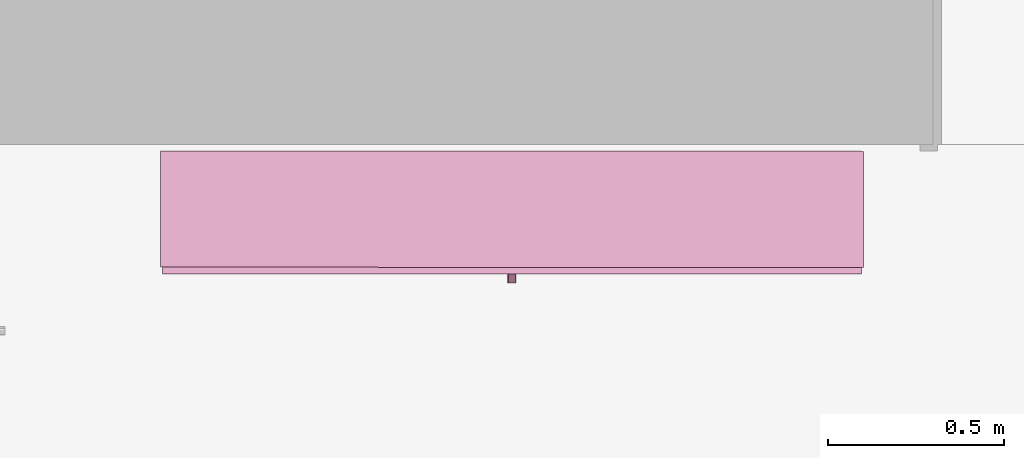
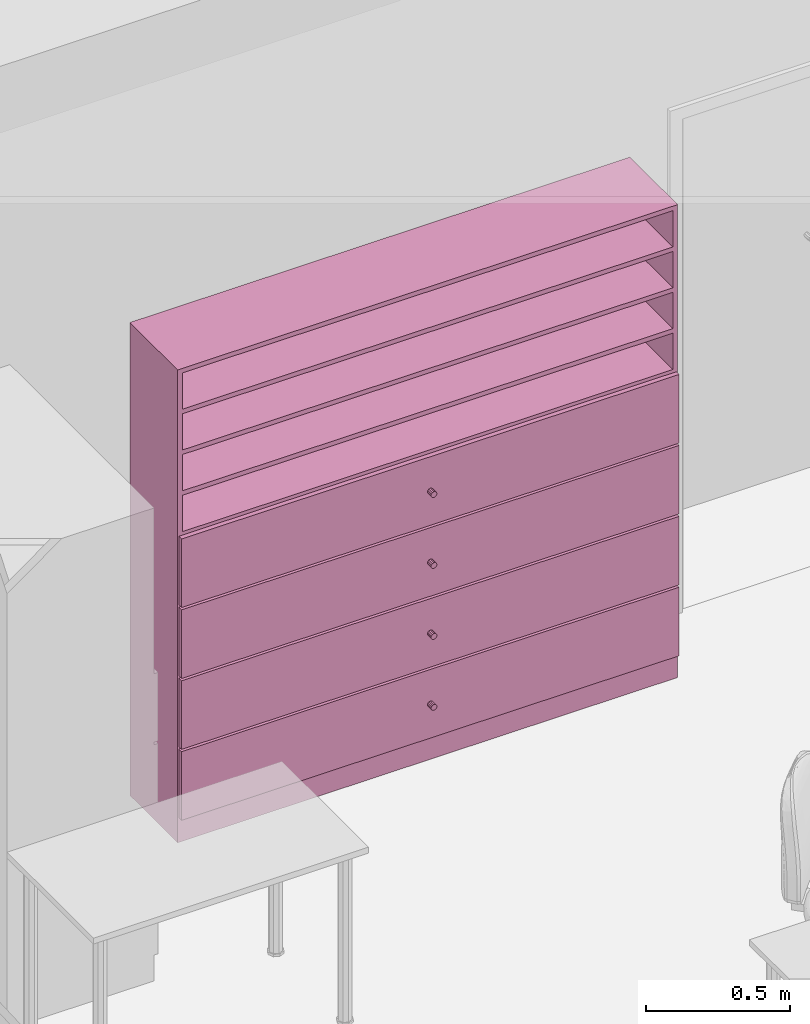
# One storey, part 158 of 194: 1 furnishing.
"""IFC2X3 building model written with IfcOpenShell, lengths in millimetres."""

from ifc_helpers import new_model, entity, si_unit, converted_unit, derived_unit, money_unit, direction, frame, origin_with_axes, place, context, subcontext, project, spatial, faceted_brep, type_object, element, save


model = new_model("IFC2X3")

# Units and contexts
model_context = context("Model", 3, precision=1e-05, world=origin_with_axes(), true_north=direction((0.0, 1.0)))
body_context = subcontext(model_context, "Body", "Model", "MODEL_VIEW")
ifc_project = project(units=[si_unit("LENGTHUNIT", "METRE", prefix="MILLI"), si_unit("AREAUNIT", "SQUARE_METRE"), si_unit("VOLUMEUNIT", "CUBIC_METRE"), converted_unit("PLANEANGLEUNIT", "DEGREE", entity("IfcPlaneAngleMeasure", 0.0174532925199), si_unit("PLANEANGLEUNIT", "RADIAN"), dimensions=[0, 0, 0, 0, 0, 0, 0]), si_unit("SOLIDANGLEUNIT", "STERADIAN"), money_unit("EUR"), converted_unit("TIMEUNIT", "Year", entity("IfcTimeMeasure", 31556926.0), si_unit("TIMEUNIT", "SECOND"), dimensions=[0, 0, 1, 0, 0, 0, 0]), si_unit("MASSUNIT", "GRAM", prefix="KILO"), si_unit("THERMODYNAMICTEMPERATUREUNIT", "DEGREE_CELSIUS"), si_unit("LUMINOUSINTENSITYUNIT", "LUMEN"), si_unit("ENERGYUNIT", "JOULE", prefix="MEGA"), derived_unit("THERMALCONDUCTANCEUNIT", [(si_unit("POWERUNIT", "WATT"), 1), (si_unit("LENGTHUNIT", "METRE"), -1), (si_unit("THERMODYNAMICTEMPERATUREUNIT", "KELVIN"), -1)]), derived_unit("SPECIFICHEATCAPACITYUNIT", [(si_unit("ENERGYUNIT", "JOULE"), 1), (si_unit("MASSUNIT", "GRAM", prefix="KILO"), -1), (si_unit("THERMODYNAMICTEMPERATUREUNIT", "KELVIN"), -1)]), derived_unit("MASSDENSITYUNIT", [(si_unit("MASSUNIT", "GRAM", prefix="KILO"), 1), (si_unit("VOLUMEUNIT", "CUBIC_METRE"), -1)])], contexts=[model_context])

# Site, building, storey
site_placement = place(None, origin_with_axes())
site = spatial("IfcSite", under=ifc_project, at=site_placement, Name="Site", CompositionType="ELEMENT")
building_placement = place(site_placement, origin_with_axes())
building = spatial("IfcBuilding", under=site, at=building_placement, Name="Building", CompositionType="ELEMENT")
storey_placement = place(building_placement, frame((0.0, 0.0, 3000.0), z_axis=(0.0, 0.0, 1.0), x_axis=(1.0, 0.0, 0.0)))
storey = spatial("IfcBuildingStorey", under=building, at=storey_placement, Name="2 KORRUS", CompositionType="ELEMENT", Elevation=3000.0)

# Furnishing
furnishing_element_type = type_object("IfcFurnishingElementType", Name="Model Element 78")
furnishing_placement = place(storey_placement, frame((5658.45700257, 62677.062779, 0.0), z_axis=(0.0, 0.0, 1.0), x_axis=(0.999999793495, -0.00064265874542, 0.0)))
element("IfcFurnishingElement", 1, at=furnishing_placement, inside=storey, type_object=furnishing_element_type, Name="FU - 001", context=body_context, shape_type="Brep", body=[
    faceted_brep([(2000.0, 19.0, 0.0), (0.0, 19.0, 0.0), (0.0, 350.0, 0.0), (2000.0, 350.0, 0.0), (2000.0, 19.0, 100.0), (0.0, 19.0, 100.0), (0.0, 350.0, 100.0), (2000.0, 350.0, 100.0)], [[[0, 1, 2, 3]], [[1, 0, 4, 5]], [[2, 1, 5, 6]], [[3, 2, 6, 7]], [[0, 3, 7, 4]], [[5, 4, 7, 6]]]),
    faceted_brep([(19.0, 350.0, 119.0), (19.0, 331.0, 119.0), (19.0, 331.0, 1981.0), (19.0, 350.0, 1981.0), (1981.0, 350.0, 119.0), (1981.0, 331.0, 119.0), (1981.0, 331.0, 1981.0), (1981.0, 350.0, 1981.0)], [[[0, 1, 2, 3]], [[0, 4, 5, 1]], [[1, 5, 6, 2]], [[3, 2, 6, 7]], [[4, 0, 3, 7]], [[5, 4, 7, 6]]]),
    faceted_brep([(2000.0, 19.0, 100.0), (1981.0, 19.0, 100.0), (1981.0, 350.0, 100.0), (2000.0, 350.0, 100.0), (2000.0, 19.0, 2000.0), (1981.0, 19.0, 2000.0), (1981.0, 350.0, 2000.0), (2000.0, 350.0, 2000.0)], [[[0, 1, 2, 3]], [[1, 0, 4, 5]], [[2, 1, 5, 6]], [[3, 2, 6, 7]], [[0, 3, 7, 4]], [[5, 4, 7, 6]]]),
    faceted_brep([(19.0, 19.0, 100.0), (0.0, 19.0, 100.0), (0.0, 350.0, 100.0), (19.0, 350.0, 100.0), (19.0, 19.0, 2000.0), (0.0, 19.0, 2000.0), (0.0, 350.0, 2000.0), (19.0, 350.0, 2000.0)], [[[0, 1, 2, 3]], [[1, 0, 4, 5]], [[2, 1, 5, 6]], [[3, 2, 6, 7]], [[0, 3, 7, 4]], [[5, 4, 7, 6]]]),
    faceted_brep([(1981.0, 19.0, 100.0), (19.0, 19.0, 100.0), (19.0, 350.0, 100.0), (1981.0, 350.0, 100.0), (1981.0, 19.0, 119.0), (19.0, 19.0, 119.0), (19.0, 350.0, 119.0), (1981.0, 350.0, 119.0)], [[[0, 1, 2, 3]], [[1, 0, 4, 5]], [[2, 1, 5, 6]], [[3, 2, 6, 7]], [[0, 3, 7, 4]], [[5, 4, 7, 6]]]),
    faceted_brep([(1981.0, 19.0, 1981.0), (19.0, 19.0, 1981.0), (19.0, 350.0, 1981.0), (1981.0, 350.0, 1981.0), (1981.0, 19.0, 2000.0), (19.0, 19.0, 2000.0), (19.0, 350.0, 2000.0), (1981.0, 350.0, 2000.0)], [[[0, 1, 2, 3]], [[1, 0, 4, 5]], [[2, 1, 5, 6]], [[3, 2, 6, 7]], [[0, 3, 7, 4]], [[5, 4, 7, 6]]]),
    faceted_brep([(5.0, 19.0, 105.0), (1995.0, 19.0, 105.0), (1995.0, 0.0, 105.0), (5.0, 0.0, 105.0), (5.0, 19.0, 395.0), (1995.0, 19.0, 395.0), (1995.0, 0.0, 395.0), (5.0, 0.0, 395.0)], [[[0, 1, 2, 3]], [[0, 4, 5, 1]], [[1, 5, 6, 2]], [[3, 2, 6, 7]], [[4, 0, 3, 7]], [[5, 4, 7, 6]]]),
    faceted_brep([(1010.39230485, 0.0, 244.0), (1006.0, 0.0, 239.607695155), (1000.0, 0.0, 238.0), (994.0, 0.0, 239.607695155), (989.607695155, 0.0, 244.0), (988.0, 0.0, 250.0), (989.607695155, 0.0, 256.0), (994.0, 0.0, 260.392304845), (1000.0, 0.0, 262.0), (1006.0, 0.0, 260.392304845), (1010.39230485, 0.0, 256.0), (1012.0, 0.0, 250.0), (1010.39230485, -25.0, 244.0), (1006.0, -25.0, 239.607695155), (1000.0, -25.0, 238.0), (994.0, -25.0, 239.607695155), (989.607695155, -25.0, 244.0), (988.0, -25.0, 250.0), (989.607695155, -25.0, 256.0), (994.0, -25.0, 260.392304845), (1000.0, -25.0, 262.0), (1006.0, -25.0, 260.392304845), (1010.39230485, -25.0, 256.0), (1012.0, -25.0, 250.0)], [[[0, 1, 2, 3, 4, 5, 6, 7, 8, 9, 10, 11]], [[1, 0, 12, 13]], [[2, 1, 13, 14]], [[3, 2, 14, 15]], [[4, 3, 15, 16]], [[5, 4, 16, 17]], [[6, 5, 17, 18]], [[7, 6, 18, 19]], [[8, 7, 19, 20]], [[9, 8, 20, 21]], [[10, 9, 21, 22]], [[11, 10, 22, 23]], [[0, 11, 23, 12]], [[12, 23, 22, 21, 20, 19, 18, 17, 16, 15, 14, 13]]]),
    faceted_brep([(5.0, 19.0, 405.0), (1995.0, 19.0, 405.0), (1995.0, 0.0, 405.0), (5.0, 0.0, 405.0), (5.0, 19.0, 695.0), (1995.0, 19.0, 695.0), (1995.0, 0.0, 695.0), (5.0, 0.0, 695.0)], [[[0, 1, 2, 3]], [[0, 4, 5, 1]], [[1, 5, 6, 2]], [[3, 2, 6, 7]], [[4, 0, 3, 7]], [[5, 4, 7, 6]]]),
    faceted_brep([(1010.39230485, 0.0, 544.0), (1006.0, 0.0, 539.607695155), (1000.0, 0.0, 538.0), (994.0, 0.0, 539.607695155), (989.607695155, 0.0, 544.0), (988.0, 0.0, 550.0), (989.607695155, 0.0, 556.0), (994.0, 0.0, 560.392304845), (1000.0, 0.0, 562.0), (1006.0, 0.0, 560.392304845), (1010.39230485, 0.0, 556.0), (1012.0, 0.0, 550.0), (1010.39230485, -25.0, 544.0), (1006.0, -25.0, 539.607695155), (1000.0, -25.0, 538.0), (994.0, -25.0, 539.607695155), (989.607695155, -25.0, 544.0), (988.0, -25.0, 550.0), (989.607695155, -25.0, 556.0), (994.0, -25.0, 560.392304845), (1000.0, -25.0, 562.0), (1006.0, -25.0, 560.392304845), (1010.39230485, -25.0, 556.0), (1012.0, -25.0, 550.0)], [[[0, 1, 2, 3, 4, 5, 6, 7, 8, 9, 10, 11]], [[1, 0, 12, 13]], [[2, 1, 13, 14]], [[3, 2, 14, 15]], [[4, 3, 15, 16]], [[5, 4, 16, 17]], [[6, 5, 17, 18]], [[7, 6, 18, 19]], [[8, 7, 19, 20]], [[9, 8, 20, 21]], [[10, 9, 21, 22]], [[11, 10, 22, 23]], [[0, 11, 23, 12]], [[12, 23, 22, 21, 20, 19, 18, 17, 16, 15, 14, 13]]]),
    faceted_brep([(5.0, 19.0, 705.0), (1995.0, 19.0, 705.0), (1995.0, 0.0, 705.0), (5.0, 0.0, 705.0), (5.0, 19.0, 995.0), (1995.0, 19.0, 995.0), (1995.0, 0.0, 995.0), (5.0, 0.0, 995.0)], [[[0, 1, 2, 3]], [[0, 4, 5, 1]], [[1, 5, 6, 2]], [[3, 2, 6, 7]], [[4, 0, 3, 7]], [[5, 4, 7, 6]]]),
    faceted_brep([(1010.39230485, 0.0, 844.0), (1006.0, 0.0, 839.607695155), (1000.0, 0.0, 838.0), (994.0, 0.0, 839.607695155), (989.607695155, 0.0, 844.0), (988.0, 0.0, 850.0), (989.607695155, 0.0, 856.0), (994.0, 0.0, 860.392304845), (1000.0, 0.0, 862.0), (1006.0, 0.0, 860.392304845), (1010.39230485, 0.0, 856.0), (1012.0, 0.0, 850.0), (1010.39230485, -25.0, 844.0), (1006.0, -25.0, 839.607695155), (1000.0, -25.0, 838.0), (994.0, -25.0, 839.607695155), (989.607695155, -25.0, 844.0), (988.0, -25.0, 850.0), (989.607695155, -25.0, 856.0), (994.0, -25.0, 860.392304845), (1000.0, -25.0, 862.0), (1006.0, -25.0, 860.392304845), (1010.39230485, -25.0, 856.0), (1012.0, -25.0, 850.0)], [[[0, 1, 2, 3, 4, 5, 6, 7, 8, 9, 10, 11]], [[1, 0, 12, 13]], [[2, 1, 13, 14]], [[3, 2, 14, 15]], [[4, 3, 15, 16]], [[5, 4, 16, 17]], [[6, 5, 17, 18]], [[7, 6, 18, 19]], [[8, 7, 19, 20]], [[9, 8, 20, 21]], [[10, 9, 21, 22]], [[11, 10, 22, 23]], [[0, 11, 23, 12]], [[12, 23, 22, 21, 20, 19, 18, 17, 16, 15, 14, 13]]]),
    faceted_brep([(5.0, 19.0, 1005.0), (1995.0, 19.0, 1005.0), (1995.0, 0.0, 1005.0), (5.0, 0.0, 1005.0), (5.0, 19.0, 1295.0), (1995.0, 19.0, 1295.0), (1995.0, 0.0, 1295.0), (5.0, 0.0, 1295.0)], [[[0, 1, 2, 3]], [[0, 4, 5, 1]], [[1, 5, 6, 2]], [[3, 2, 6, 7]], [[4, 0, 3, 7]], [[5, 4, 7, 6]]]),
    faceted_brep([(1010.39230485, 0.0, 1144.0), (1006.0, 0.0, 1139.60769515), (1000.0, 0.0, 1138.0), (994.0, 0.0, 1139.60769515), (989.607695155, 0.0, 1144.0), (988.0, 0.0, 1150.0), (989.607695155, 0.0, 1156.0), (994.0, 0.0, 1160.39230485), (1000.0, 0.0, 1162.0), (1006.0, 0.0, 1160.39230485), (1010.39230485, 0.0, 1156.0), (1012.0, 0.0, 1150.0), (1010.39230485, -25.0, 1144.0), (1006.0, -25.0, 1139.60769515), (1000.0, -25.0, 1138.0), (994.0, -25.0, 1139.60769515), (989.607695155, -25.0, 1144.0), (988.0, -25.0, 1150.0), (989.607695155, -25.0, 1156.0), (994.0, -25.0, 1160.39230485), (1000.0, -25.0, 1162.0), (1006.0, -25.0, 1160.39230485), (1010.39230485, -25.0, 1156.0), (1012.0, -25.0, 1150.0)], [[[0, 1, 2, 3, 4, 5, 6, 7, 8, 9, 10, 11]], [[1, 0, 12, 13]], [[2, 1, 13, 14]], [[3, 2, 14, 15]], [[4, 3, 15, 16]], [[5, 4, 16, 17]], [[6, 5, 17, 18]], [[7, 6, 18, 19]], [[8, 7, 19, 20]], [[9, 8, 20, 21]], [[10, 9, 21, 22]], [[11, 10, 22, 23]], [[0, 11, 23, 12]], [[12, 23, 22, 21, 20, 19, 18, 17, 16, 15, 14, 13]]]),
    faceted_brep([(19.0, 19.0, 390.5), (1981.0, 19.0, 390.5), (1981.0, 19.0, 409.5), (19.0, 19.0, 409.5), (19.0, 331.0, 390.5), (1981.0, 331.0, 390.5), (1981.0, 331.0, 409.5), (19.0, 331.0, 409.5)], [[[0, 1, 2, 3]], [[0, 4, 5, 1]], [[1, 5, 6, 2]], [[3, 2, 6, 7]], [[4, 0, 3, 7]], [[5, 4, 7, 6]]]),
    faceted_brep([(19.0, 19.0, 690.5), (1981.0, 19.0, 690.5), (1981.0, 19.0, 709.5), (19.0, 19.0, 709.5), (19.0, 331.0, 690.5), (1981.0, 331.0, 690.5), (1981.0, 331.0, 709.5), (19.0, 331.0, 709.5)], [[[0, 1, 2, 3]], [[0, 4, 5, 1]], [[1, 5, 6, 2]], [[3, 2, 6, 7]], [[4, 0, 3, 7]], [[5, 4, 7, 6]]]),
    faceted_brep([(19.0, 19.0, 990.5), (1981.0, 19.0, 990.5), (1981.0, 19.0, 1009.5), (19.0, 19.0, 1009.5), (19.0, 331.0, 990.5), (1981.0, 331.0, 990.5), (1981.0, 331.0, 1009.5), (19.0, 331.0, 1009.5)], [[[0, 1, 2, 3]], [[0, 4, 5, 1]], [[1, 5, 6, 2]], [[3, 2, 6, 7]], [[4, 0, 3, 7]], [[5, 4, 7, 6]]]),
    faceted_brep([(19.0, 19.0, 1290.5), (1981.0, 19.0, 1290.5), (1981.0, 19.0, 1309.5), (19.0, 19.0, 1309.5), (19.0, 331.0, 1290.5), (1981.0, 331.0, 1290.5), (1981.0, 331.0, 1309.5), (19.0, 331.0, 1309.5)], [[[0, 1, 2, 3]], [[0, 4, 5, 1]], [[1, 5, 6, 2]], [[3, 2, 6, 7]], [[4, 0, 3, 7]], [[5, 4, 7, 6]]]),
    faceted_brep([(1981.0, 19.0, 1463.125), (19.0, 19.0, 1463.125), (19.0, 331.0, 1463.125), (1981.0, 331.0, 1463.125), (1981.0, 19.0, 1482.125), (19.0, 19.0, 1482.125), (19.0, 331.0, 1482.125), (1981.0, 331.0, 1482.125)], [[[0, 1, 2, 3]], [[1, 0, 4, 5]], [[2, 1, 5, 6]], [[3, 2, 6, 7]], [[0, 3, 7, 4]], [[5, 4, 7, 6]]]),
    faceted_brep([(1981.0, 19.0, 1635.75), (19.0, 19.0, 1635.75), (19.0, 331.0, 1635.75), (1981.0, 331.0, 1635.75), (1981.0, 19.0, 1654.75), (19.0, 19.0, 1654.75), (19.0, 331.0, 1654.75), (1981.0, 331.0, 1654.75)], [[[0, 1, 2, 3]], [[1, 0, 4, 5]], [[2, 1, 5, 6]], [[3, 2, 6, 7]], [[0, 3, 7, 4]], [[5, 4, 7, 6]]]),
    faceted_brep([(1981.0, 19.0, 1808.375), (19.0, 19.0, 1808.375), (19.0, 331.0, 1808.375), (1981.0, 331.0, 1808.375), (1981.0, 19.0, 1827.375), (19.0, 19.0, 1827.375), (19.0, 331.0, 1827.375), (1981.0, 331.0, 1827.375)], [[[0, 1, 2, 3]], [[1, 0, 4, 5]], [[2, 1, 5, 6]], [[3, 2, 6, 7]], [[0, 3, 7, 4]], [[5, 4, 7, 6]]]),
])

save(model, "model.ifc")
